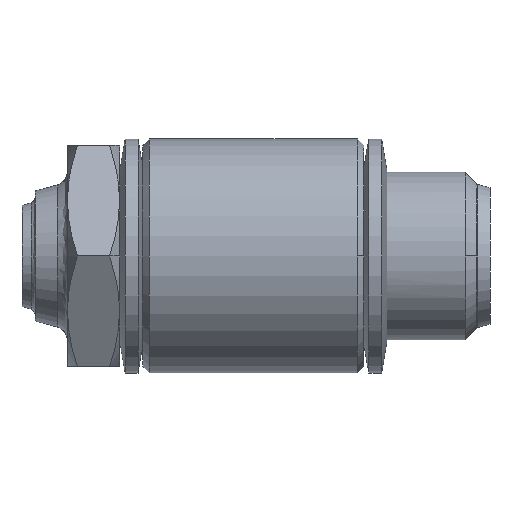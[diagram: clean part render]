
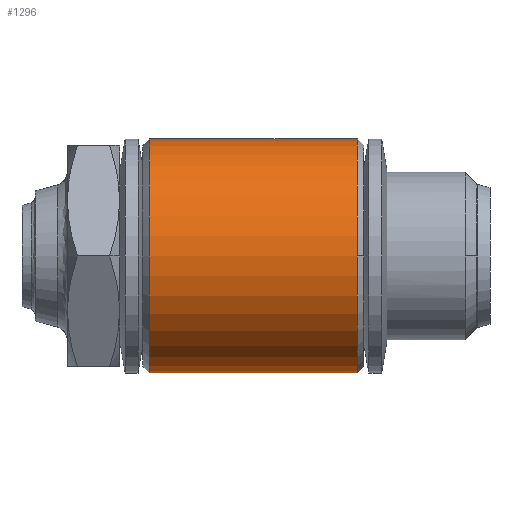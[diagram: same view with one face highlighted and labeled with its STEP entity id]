
A CAD part, left-side view. The second image highlights one B-rep face of the part: STEP entity #1296.
In plain terms, the highlighted cylindrical face has radius 9.027 mm (diameter 18.054 mm), a partial arc.
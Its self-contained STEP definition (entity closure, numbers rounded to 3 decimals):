
#73 = DIRECTION ( 'NONE',  ( 0., 0., -1. ) ) ;
#554 = AXIS2_PLACEMENT_3D ( 'NONE', #926, #3012, #883 ) ;
#883 = DIRECTION ( 'NONE',  ( 0., 0., -1. ) ) ;
#926 = CARTESIAN_POINT ( 'NONE',  ( -0.012, 26.223, 0.001 ) ) ;
#965 = CARTESIAN_POINT ( 'NONE',  ( -0.012, 10.175, 0.001 ) ) ;
#1001 = CYLINDRICAL_SURFACE ( 'NONE', #2502, 9.027 ) ;
#1296 = ADVANCED_FACE ( 'NONE', ( #5690 ), #1001, .T. ) ;
#1490 = DIRECTION ( 'NONE',  ( 0., 1., 0. ) ) ;
#1548 = CARTESIAN_POINT ( 'NONE',  ( -9.039, 10.175, 0.001 ) ) ;
#1616 = DIRECTION ( 'NONE',  ( 0., -1., 0. ) ) ;
#1665 = DIRECTION ( 'NONE',  ( 0., -1., 0. ) ) ;
#1728 = CIRCLE ( 'NONE', #6173, 9.027 ) ;
#1807 = DIRECTION ( 'NONE',  ( 0., 0., -1. ) ) ;
#1851 = VERTEX_POINT ( 'NONE', #1548 ) ;
#2316 = VERTEX_POINT ( 'NONE', #5565 ) ;
#2398 = EDGE_CURVE ( 'NONE', #2689, #2316, #4697, .T. ) ;
#2502 = AXIS2_PLACEMENT_3D ( 'NONE', #4759, #1616, #73 ) ;
#2565 = ORIENTED_EDGE ( 'NONE', *, *, #2683, .T. ) ;
#2600 = CARTESIAN_POINT ( 'NONE',  ( -0.012, 26.223, 9.028 ) ) ;
#2626 = EDGE_CURVE ( 'NONE', #1851, #3934, #4866, .T. ) ;
#2683 = EDGE_CURVE ( 'NONE', #2316, #3857, #5124, .T. ) ;
#2689 = VERTEX_POINT ( 'NONE', #2600 ) ;
#2908 = DIRECTION ( 'NONE',  ( 0., 0., -1. ) ) ;
#2932 = CARTESIAN_POINT ( 'NONE',  ( -0.012, 10.175, 0.001 ) ) ;
#3012 = DIRECTION ( 'NONE',  ( 0., -1., 0. ) ) ;
#3209 = CARTESIAN_POINT ( 'NONE',  ( -0.012, 10.175, -9.026 ) ) ;
#3422 = EDGE_LOOP ( 'NONE', ( #6548, #6034, #2565, #5848, #3654 ) ) ;
#3654 = ORIENTED_EDGE ( 'NONE', *, *, #2626, .T. ) ;
#3777 = LINE ( 'NONE', #4807, #4602 ) ;
#3857 = VERTEX_POINT ( 'NONE', #3209 ) ;
#3934 = VERTEX_POINT ( 'NONE', #5883 ) ;
#4156 = CARTESIAN_POINT ( 'NONE',  ( -0.012, 8.671, -9.026 ) ) ;
#4602 = VECTOR ( 'NONE', #1665, 1000. ) ;
#4697 = CIRCLE ( 'NONE', #554, 9.027 ) ;
#4759 = CARTESIAN_POINT ( 'NONE',  ( -0.012, 8.671, 0.001 ) ) ;
#4804 = EDGE_CURVE ( 'NONE', #3857, #1851, #1728, .T. ) ;
#4807 = CARTESIAN_POINT ( 'NONE',  ( -0.012, 8.671, 9.028 ) ) ;
#4866 = CIRCLE ( 'NONE', #5671, 9.027 ) ;
#5124 = LINE ( 'NONE', #4156, #5274 ) ;
#5274 = VECTOR ( 'NONE', #6252, 1000. ) ;
#5565 = CARTESIAN_POINT ( 'NONE',  ( -0.012, 26.223, -9.026 ) ) ;
#5628 = EDGE_CURVE ( 'NONE', #2689, #3934, #3777, .T. ) ;
#5671 = AXIS2_PLACEMENT_3D ( 'NONE', #965, #1490, #2908 ) ;
#5690 = FACE_OUTER_BOUND ( 'NONE', #3422, .T. ) ;
#5848 = ORIENTED_EDGE ( 'NONE', *, *, #4804, .T. ) ;
#5883 = CARTESIAN_POINT ( 'NONE',  ( -0.012, 10.175, 9.028 ) ) ;
#6034 = ORIENTED_EDGE ( 'NONE', *, *, #2398, .T. ) ;
#6173 = AXIS2_PLACEMENT_3D ( 'NONE', #2932, #6559, #1807 ) ;
#6252 = DIRECTION ( 'NONE',  ( 0., -1., 0. ) ) ;
#6548 = ORIENTED_EDGE ( 'NONE', *, *, #5628, .F. ) ;
#6559 = DIRECTION ( 'NONE',  ( 0., 1., 0. ) ) ;
